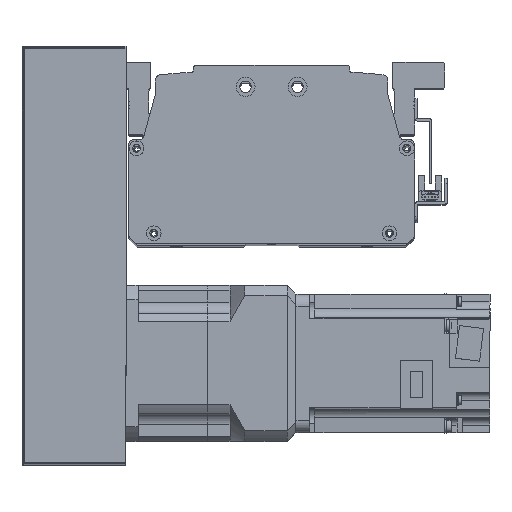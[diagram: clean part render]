
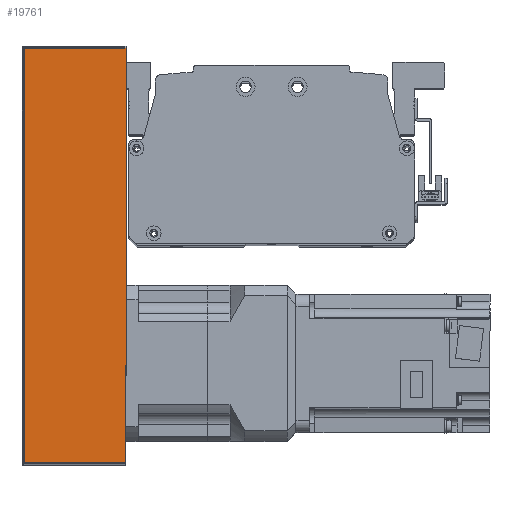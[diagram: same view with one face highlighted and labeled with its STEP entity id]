
A CAD part, top view. The second image highlights one B-rep face of the part: STEP entity #19761.
In plain terms, the highlighted planar face has unit normal (0, 0, 1) as drawn and (0, 1, 0) by its records, which use the part's own axes.
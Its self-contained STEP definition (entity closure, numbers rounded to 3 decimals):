
#577=PLANE('',#21527);
#1705=LINE('',#31685,#3365);
#1727=LINE('',#31778,#3387);
#1729=LINE('',#31788,#3389);
#1731=LINE('',#31791,#3391);
#3365=VECTOR('',#25620,10.);
#3387=VECTOR('',#25740,10.);
#3389=VECTOR('',#25754,10.);
#3391=VECTOR('',#25758,10.);
#5322=FACE_OUTER_BOUND('',#6698,.T.);
#6698=EDGE_LOOP('',(#16024,#16025,#16026,#16027));
#9516=VERTEX_POINT('',#31682);
#9517=VERTEX_POINT('',#31684);
#9538=VERTEX_POINT('',#31772);
#9541=VERTEX_POINT('',#31784);
#11850=EDGE_CURVE('',#9516,#9517,#1705,.T.);
#11898=EDGE_CURVE('',#9538,#9516,#1727,.T.);
#11903=EDGE_CURVE('',#9517,#9541,#1729,.T.);
#11905=EDGE_CURVE('',#9541,#9538,#1731,.T.);
#16024=ORIENTED_EDGE('',*,*,#11898,.F.);
#16025=ORIENTED_EDGE('',*,*,#11905,.F.);
#16026=ORIENTED_EDGE('',*,*,#11903,.F.);
#16027=ORIENTED_EDGE('',*,*,#11850,.F.);
#19761=ADVANCED_FACE('',(#5322),#577,.T.);
#21527=AXIS2_PLACEMENT_3D('',#31797,#25766,#25767);
#25620=DIRECTION('',(-1.,0.,0.));
#25740=DIRECTION('',(0.,0.,1.));
#25754=DIRECTION('',(0.,0.,-1.));
#25758=DIRECTION('',(1.,0.,0.));
#25766=DIRECTION('center_axis',(0.,1.,0.));
#25767=DIRECTION('ref_axis',(-1.,0.,0.));
#31682=CARTESIAN_POINT('',(120.,51.,30.));
#31684=CARTESIAN_POINT('',(-120.,51.,30.));
#31685=CARTESIAN_POINT('',(-121.,51.,30.));
#31772=CARTESIAN_POINT('',(120.,51.,-29.));
#31778=CARTESIAN_POINT('',(120.,51.,0.));
#31784=CARTESIAN_POINT('',(-120.,51.,-29.));
#31788=CARTESIAN_POINT('',(-120.,51.,0.));
#31791=CARTESIAN_POINT('',(60.5,51.,-29.));
#31797=CARTESIAN_POINT('Origin',(121.,51.,0.));
